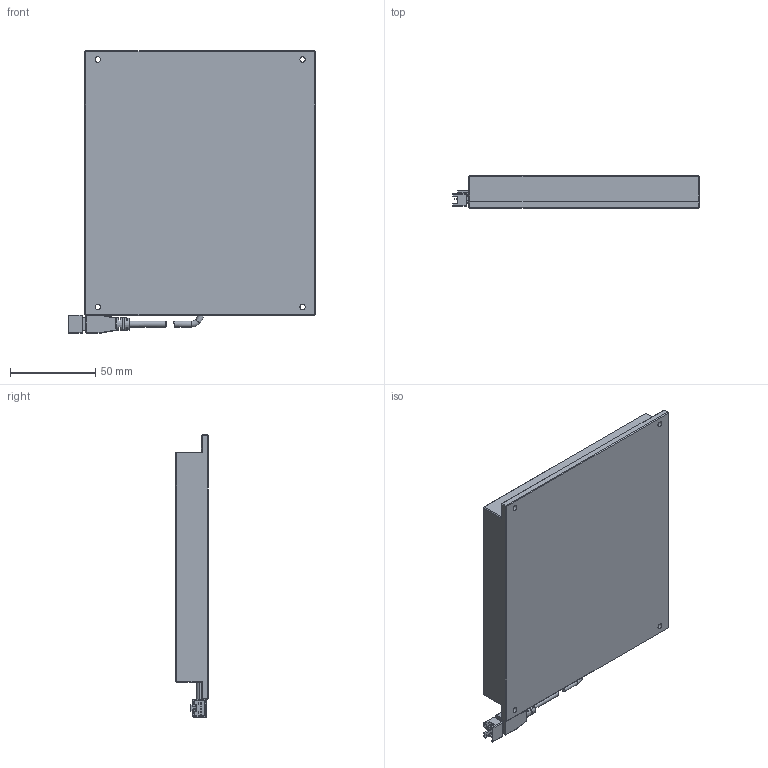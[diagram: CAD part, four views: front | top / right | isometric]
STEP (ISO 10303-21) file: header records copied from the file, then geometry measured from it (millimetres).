
FILE_DESCRIPTION((''),'2;1');
FILE_NAME('MV-LBSS-120-120_ASM','2019-09-19T',('Administrator'),(''),'PRO/ENGINEER BY PARAMETRIC TECHNOLOGY CORPORATION, 2010100','PRO/ENGINEER BY PARAMETRIC TECHNOLOGY CORPORATION, 2010100','');
FILE_SCHEMA(('CONFIG_CONTROL_DESIGN'));
Length unit declared in the file: millimetre
Products named in the file (5): JIANYI_1; LINE_TOU_2; BODY_12_1; ASSY_ASM_1_ASM; MV-LBSS-120-120_ASM
Assembly tree (4 placements, depth 3):
  MV-LBSS-120-120_ASM
    JIANYI_1
    ASSY_ASM_1_ASM
      LINE_TOU_2
      BODY_12_1
Bounding box: 144.6 x 19 x 165.25 mm (x, y, z)
Volume: 352002.6 mm3; surface area: 54676.5 mm2
Topology: 3 solids, 3 shells, 271 faces, 706 edges, 443 vertices
Faces by surface type: plane 166, cylinder 75, torus 12, bspline 8, sphere 8, cone 2
Entity records: 8522 total; most frequent: CARTESIAN_POINT 1736, ORIENTED_EDGE 1396, DIRECTION 1394, EDGE_CURVE 698, VECTOR 474, LINE 474, AXIS2_PLACEMENT_3D 460, VERTEX_POINT 443
